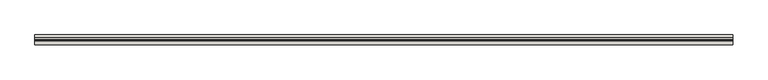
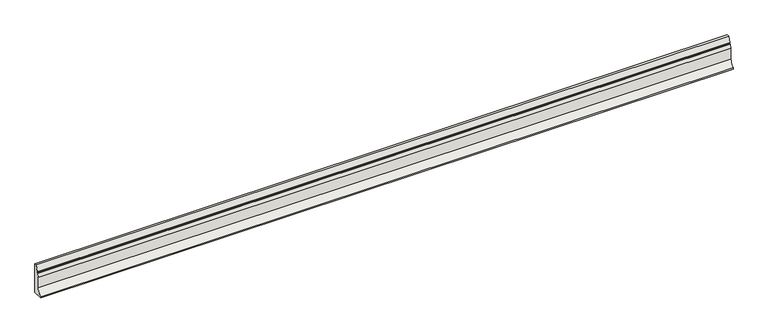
"""IFC4 building model written with IfcOpenShell, lengths in millimetres: wall geometry, GM_PC_WPB_ACO kerb PB straight_ACO : PB H200 standard."""

from ifc_helpers import new_model, si_unit, point, frame, frame_2d, origin, place, context, project, spatial, polyline, circle_curve, trimmed, segment, composite_curve, outline, extrude, source, transform, mapped, element, save


def wall_b8364dbe(model_context):
    return source(origin(), model_context, "Body", "SweptSolid", [
        extrude(outline(composite_curve([segment(polyline([(-40.0039527, 130.0277035), (-31.5963262, 153.428955), (-26.03433, 154.0469313), (-24.6373807, 157.7298564), (-28.690316, 161.1592348), (-14.5292951, 200.0197419), (0.0, 200.0197419), (0.0, 0.0), (-65.0223078, 0.0), (-65.0223078, 8.9062534)]), True, "CONTINUOUS"), segment(trimmed(circle_curve(frame_2d((-94.2239515, 54.592465)), 54.2214526), [point((-65.0223078, 8.9062534))], [point((-40.0039527, 54.9895287))], True, "CARTESIAN"), True, "CONTINUOUS"), segment(polyline([(-40.0039527, 54.9895287), (-40.0039527, 130.0277035)]), True, "CONTINUOUS")], self_intersect=False)), frame((0.0, 0.0, 0.0), z_axis=(1.0, 0.0, 0.0), x_axis=(0.0, 1.0, 0.0)), (0.0, 0.0, 1.0), 4600.0),
    ])


if __name__ == "__main__":
    model = new_model("IFC4")
    model_context = context("Model", 3, world=origin())
    ifc_project = project(units=[si_unit("LENGTHUNIT", "METRE", prefix="MILLI")], contexts=[model_context])
    site = spatial("IfcSite", under=ifc_project)
    building = spatial("IfcBuilding", under=site)
    placement = place(None, origin())
    wall_shape = wall_b8364dbe(model_context)
    element("IfcWall", 1, ObjectType="GM_PC_WPB_ACO kerb PB straight_ACO : PB H200 standard", at=placement, inside=building, context=model_context, shape_type="MappedRepresentation", body=[
        mapped(wall_shape, transform((0.0, 0.0, 0.0), x_axis=(1.0, 0.0, 0.0), y_axis=(0.0, 1.0, 0.0), z_axis=(0.0, 0.0, 1.0))),
    ])
    save(model, "model.ifc")
